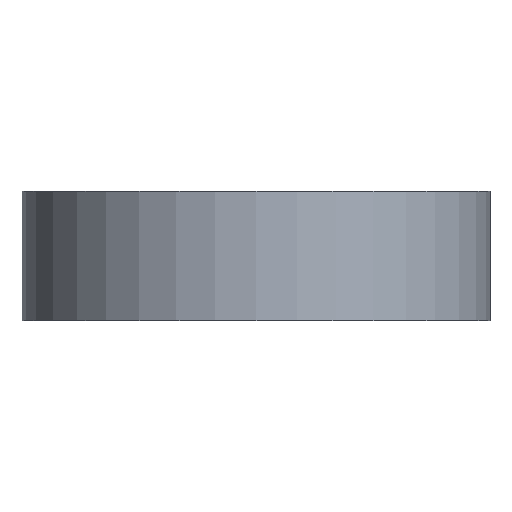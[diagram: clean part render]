
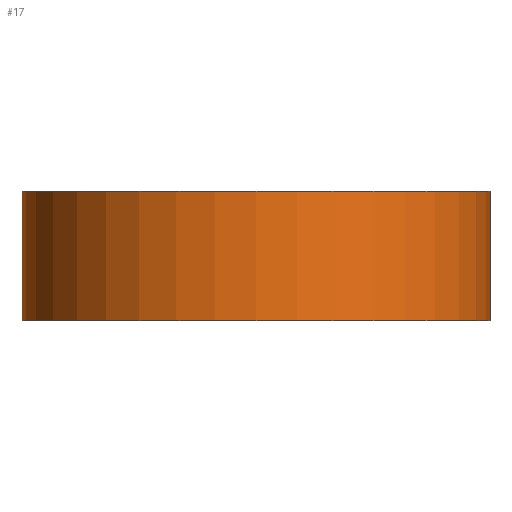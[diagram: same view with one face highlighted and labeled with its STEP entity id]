
A CAD part, front view. The second image highlights one B-rep face of the part: STEP entity #17.
In plain terms, the highlighted cylindrical face has radius 155 mm (diameter 310 mm), a full revolution.
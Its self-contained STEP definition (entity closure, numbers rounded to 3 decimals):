
#17 = ADVANCED_FACE('',(#18,#105),#32,.T.);
#18 = FACE_BOUND('',#19,.T.);
#19 = EDGE_LOOP('',(#20,#50,#77,#78));
#20 = ORIENTED_EDGE('',*,*,#21,.T.);
#21 = EDGE_CURVE('',#22,#24,#26,.T.);
#22 = VERTEX_POINT('',#23);
#23 = CARTESIAN_POINT('',(-340.,155.,238.));
#24 = VERTEX_POINT('',#25);
#25 = CARTESIAN_POINT('',(-340.,155.,324.));
#26 = SEAM_CURVE('',#27,(#31,#43),.PCURVE_S1.);
#27 = LINE('',#28,#29);
#28 = CARTESIAN_POINT('',(-340.,155.,238.));
#29 = VECTOR('',#30,1.);
#30 = DIRECTION('',(0.,0.,1.));
#31 = PCURVE('',#32,#37);
#32 = CYLINDRICAL_SURFACE('',#33,155.);
#33 = AXIS2_PLACEMENT_3D('',#34,#35,#36);
#34 = CARTESIAN_POINT('',(-495.,155.,238.));
#35 = DIRECTION('',(0.,0.,1.));
#36 = DIRECTION('',(1.,0.,-0.));
#37 = DEFINITIONAL_REPRESENTATION('',(#38),#42);
#38 = LINE('',#39,#40);
#39 = CARTESIAN_POINT('',(6.283,-0.));
#40 = VECTOR('',#41,1.);
#41 = DIRECTION('',(0.,1.));
#42 = ( GEOMETRIC_REPRESENTATION_CONTEXT(2) 
PARAMETRIC_REPRESENTATION_CONTEXT() REPRESENTATION_CONTEXT('2D SPACE',''
  ) );
#43 = PCURVE('',#32,#44);
#44 = DEFINITIONAL_REPRESENTATION('',(#45),#49);
#45 = LINE('',#46,#47);
#46 = CARTESIAN_POINT('',(0.,-0.));
#47 = VECTOR('',#48,1.);
#48 = DIRECTION('',(0.,1.));
#49 = ( GEOMETRIC_REPRESENTATION_CONTEXT(2) 
PARAMETRIC_REPRESENTATION_CONTEXT() REPRESENTATION_CONTEXT('2D SPACE',''
  ) );
#50 = ORIENTED_EDGE('',*,*,#51,.F.);
#51 = EDGE_CURVE('',#24,#24,#52,.T.);
#52 = SURFACE_CURVE('',#53,(#58,#65),.PCURVE_S1.);
#53 = CIRCLE('',#54,155.);
#54 = AXIS2_PLACEMENT_3D('',#55,#56,#57);
#55 = CARTESIAN_POINT('',(-495.,155.,324.));
#56 = DIRECTION('',(0.,0.,1.));
#57 = DIRECTION('',(1.,0.,-0.));
#58 = PCURVE('',#32,#59);
#59 = DEFINITIONAL_REPRESENTATION('',(#60),#64);
#60 = LINE('',#61,#62);
#61 = CARTESIAN_POINT('',(0.,86.));
#62 = VECTOR('',#63,1.);
#63 = DIRECTION('',(1.,0.));
#64 = ( GEOMETRIC_REPRESENTATION_CONTEXT(2) 
PARAMETRIC_REPRESENTATION_CONTEXT() REPRESENTATION_CONTEXT('2D SPACE',''
  ) );
#65 = PCURVE('',#66,#71);
#66 = PLANE('',#67);
#67 = AXIS2_PLACEMENT_3D('',#68,#69,#70);
#68 = CARTESIAN_POINT('',(-495.,155.,324.));
#69 = DIRECTION('',(0.,0.,1.));
#70 = DIRECTION('',(1.,0.,-0.));
#71 = DEFINITIONAL_REPRESENTATION('',(#72),#76);
#72 = CIRCLE('',#73,155.);
#73 = AXIS2_PLACEMENT_2D('',#74,#75);
#74 = CARTESIAN_POINT('',(0.,0.));
#75 = DIRECTION('',(1.,0.));
#76 = ( GEOMETRIC_REPRESENTATION_CONTEXT(2) 
PARAMETRIC_REPRESENTATION_CONTEXT() REPRESENTATION_CONTEXT('2D SPACE',''
  ) );
#77 = ORIENTED_EDGE('',*,*,#21,.F.);
#78 = ORIENTED_EDGE('',*,*,#79,.T.);
#79 = EDGE_CURVE('',#22,#22,#80,.T.);
#80 = SURFACE_CURVE('',#81,(#86,#93),.PCURVE_S1.);
#81 = CIRCLE('',#82,155.);
#82 = AXIS2_PLACEMENT_3D('',#83,#84,#85);
#83 = CARTESIAN_POINT('',(-495.,155.,238.));
#84 = DIRECTION('',(0.,0.,1.));
#85 = DIRECTION('',(1.,0.,-0.));
#86 = PCURVE('',#32,#87);
#87 = DEFINITIONAL_REPRESENTATION('',(#88),#92);
#88 = LINE('',#89,#90);
#89 = CARTESIAN_POINT('',(0.,0.));
#90 = VECTOR('',#91,1.);
#91 = DIRECTION('',(1.,0.));
#92 = ( GEOMETRIC_REPRESENTATION_CONTEXT(2) 
PARAMETRIC_REPRESENTATION_CONTEXT() REPRESENTATION_CONTEXT('2D SPACE',''
  ) );
#93 = PCURVE('',#94,#99);
#94 = PLANE('',#95);
#95 = AXIS2_PLACEMENT_3D('',#96,#97,#98);
#96 = CARTESIAN_POINT('',(-495.,155.,238.));
#97 = DIRECTION('',(0.,0.,1.));
#98 = DIRECTION('',(1.,0.,-0.));
#99 = DEFINITIONAL_REPRESENTATION('',(#100),#104);
#100 = CIRCLE('',#101,155.);
#101 = AXIS2_PLACEMENT_2D('',#102,#103);
#102 = CARTESIAN_POINT('',(0.,0.));
#103 = DIRECTION('',(1.,0.));
#104 = ( GEOMETRIC_REPRESENTATION_CONTEXT(2) 
PARAMETRIC_REPRESENTATION_CONTEXT() REPRESENTATION_CONTEXT('2D SPACE',''
  ) );
#105 = FACE_BOUND('',#106,.T.);
#106 = EDGE_LOOP('',(#107,#138,#164,#193));
#107 = ORIENTED_EDGE('',*,*,#108,.F.);
#108 = EDGE_CURVE('',#109,#111,#113,.T.);
#109 = VERTEX_POINT('',#110);
#110 = CARTESIAN_POINT('',(-347.298,202.,274.));
#111 = VERTEX_POINT('',#112);
#112 = CARTESIAN_POINT('',(-377.424,256.,274.));
#113 = SURFACE_CURVE('',#114,(#119,#126),.PCURVE_S1.);
#114 = CIRCLE('',#115,155.);
#115 = AXIS2_PLACEMENT_3D('',#116,#117,#118);
#116 = CARTESIAN_POINT('',(-495.,155.,274.));
#117 = DIRECTION('',(0.,0.,1.));
#118 = DIRECTION('',(1.,0.,-0.));
#119 = PCURVE('',#32,#120);
#120 = DEFINITIONAL_REPRESENTATION('',(#121),#125);
#121 = LINE('',#122,#123);
#122 = CARTESIAN_POINT('',(0.,36.));
#123 = VECTOR('',#124,1.);
#124 = DIRECTION('',(1.,0.));
#125 = ( GEOMETRIC_REPRESENTATION_CONTEXT(2) 
PARAMETRIC_REPRESENTATION_CONTEXT() REPRESENTATION_CONTEXT('2D SPACE',''
  ) );
#126 = PCURVE('',#127,#132);
#127 = PLANE('',#128);
#128 = AXIS2_PLACEMENT_3D('',#129,#130,#131);
#129 = CARTESIAN_POINT('',(-390.,202.,274.));
#130 = DIRECTION('',(0.,0.,1.));
#131 = DIRECTION('',(1.,0.,-0.));
#132 = DEFINITIONAL_REPRESENTATION('',(#133),#137);
#133 = CIRCLE('',#134,155.);
#134 = AXIS2_PLACEMENT_2D('',#135,#136);
#135 = CARTESIAN_POINT('',(-105.,-47.));
#136 = DIRECTION('',(1.,0.));
#137 = ( GEOMETRIC_REPRESENTATION_CONTEXT(2) 
PARAMETRIC_REPRESENTATION_CONTEXT() REPRESENTATION_CONTEXT('2D SPACE',''
  ) );
#138 = ORIENTED_EDGE('',*,*,#139,.T.);
#139 = EDGE_CURVE('',#109,#140,#142,.T.);
#140 = VERTEX_POINT('',#141);
#141 = CARTESIAN_POINT('',(-347.298,202.,312.));
#142 = SURFACE_CURVE('',#143,(#147,#153),.PCURVE_S1.);
#143 = LINE('',#144,#145);
#144 = CARTESIAN_POINT('',(-347.298,202.,238.));
#145 = VECTOR('',#146,1.);
#146 = DIRECTION('',(0.,0.,1.));
#147 = PCURVE('',#32,#148);
#148 = DEFINITIONAL_REPRESENTATION('',(#149),#152);
#149 = B_SPLINE_CURVE_WITH_KNOTS('',1,(#150,#151),.UNSPECIFIED.,.F.,.F.,
  (2,2),(32.2,77.8),.PIECEWISE_BEZIER_KNOTS.);
#150 = CARTESIAN_POINT('',(0.308,32.2));
#151 = CARTESIAN_POINT('',(0.308,77.8));
#152 = ( GEOMETRIC_REPRESENTATION_CONTEXT(2) 
PARAMETRIC_REPRESENTATION_CONTEXT() REPRESENTATION_CONTEXT('2D SPACE',''
  ) );
#153 = PCURVE('',#154,#159);
#154 = PLANE('',#155);
#155 = AXIS2_PLACEMENT_3D('',#156,#157,#158);
#156 = CARTESIAN_POINT('',(-390.,202.,274.));
#157 = DIRECTION('',(-0.,1.,0.));
#158 = DIRECTION('',(0.,0.,1.));
#159 = DEFINITIONAL_REPRESENTATION('',(#160),#163);
#160 = B_SPLINE_CURVE_WITH_KNOTS('',1,(#161,#162),.UNSPECIFIED.,.F.,.F.,
  (2,2),(32.2,77.8),.PIECEWISE_BEZIER_KNOTS.);
#161 = CARTESIAN_POINT('',(-3.8,42.702));
#162 = CARTESIAN_POINT('',(41.8,42.702));
#163 = ( GEOMETRIC_REPRESENTATION_CONTEXT(2) 
PARAMETRIC_REPRESENTATION_CONTEXT() REPRESENTATION_CONTEXT('2D SPACE',''
  ) );
#164 = ORIENTED_EDGE('',*,*,#165,.T.);
#165 = EDGE_CURVE('',#140,#166,#168,.T.);
#166 = VERTEX_POINT('',#167);
#167 = CARTESIAN_POINT('',(-377.424,256.,312.));
#168 = SURFACE_CURVE('',#169,(#174,#181),.PCURVE_S1.);
#169 = CIRCLE('',#170,155.);
#170 = AXIS2_PLACEMENT_3D('',#171,#172,#173);
#171 = CARTESIAN_POINT('',(-495.,155.,312.));
#172 = DIRECTION('',(0.,0.,1.));
#173 = DIRECTION('',(1.,0.,-0.));
#174 = PCURVE('',#32,#175);
#175 = DEFINITIONAL_REPRESENTATION('',(#176),#180);
#176 = LINE('',#177,#178);
#177 = CARTESIAN_POINT('',(0.,74.));
#178 = VECTOR('',#179,1.);
#179 = DIRECTION('',(1.,0.));
#180 = ( GEOMETRIC_REPRESENTATION_CONTEXT(2) 
PARAMETRIC_REPRESENTATION_CONTEXT() REPRESENTATION_CONTEXT('2D SPACE',''
  ) );
#181 = PCURVE('',#182,#187);
#182 = PLANE('',#183);
#183 = AXIS2_PLACEMENT_3D('',#184,#185,#186);
#184 = CARTESIAN_POINT('',(-390.,202.,312.));
#185 = DIRECTION('',(0.,0.,1.));
#186 = DIRECTION('',(1.,0.,-0.));
#187 = DEFINITIONAL_REPRESENTATION('',(#188),#192);
#188 = CIRCLE('',#189,155.);
#189 = AXIS2_PLACEMENT_2D('',#190,#191);
#190 = CARTESIAN_POINT('',(-105.,-47.));
#191 = DIRECTION('',(1.,0.));
#192 = ( GEOMETRIC_REPRESENTATION_CONTEXT(2) 
PARAMETRIC_REPRESENTATION_CONTEXT() REPRESENTATION_CONTEXT('2D SPACE',''
  ) );
#193 = ORIENTED_EDGE('',*,*,#194,.F.);
#194 = EDGE_CURVE('',#111,#166,#195,.T.);
#195 = SURFACE_CURVE('',#196,(#200,#206),.PCURVE_S1.);
#196 = LINE('',#197,#198);
#197 = CARTESIAN_POINT('',(-377.424,256.,238.));
#198 = VECTOR('',#199,1.);
#199 = DIRECTION('',(0.,0.,1.));
#200 = PCURVE('',#32,#201);
#201 = DEFINITIONAL_REPRESENTATION('',(#202),#205);
#202 = B_SPLINE_CURVE_WITH_KNOTS('',1,(#203,#204),.UNSPECIFIED.,.F.,.F.,
  (2,2),(32.2,77.8),.PIECEWISE_BEZIER_KNOTS.);
#203 = CARTESIAN_POINT('',(0.71,32.2));
#204 = CARTESIAN_POINT('',(0.71,77.8));
#205 = ( GEOMETRIC_REPRESENTATION_CONTEXT(2) 
PARAMETRIC_REPRESENTATION_CONTEXT() REPRESENTATION_CONTEXT('2D SPACE',''
  ) );
#206 = PCURVE('',#207,#212);
#207 = PLANE('',#208);
#208 = AXIS2_PLACEMENT_3D('',#209,#210,#211);
#209 = CARTESIAN_POINT('',(-390.,256.,274.));
#210 = DIRECTION('',(-0.,1.,0.));
#211 = DIRECTION('',(0.,0.,1.));
#212 = DEFINITIONAL_REPRESENTATION('',(#213),#216);
#213 = B_SPLINE_CURVE_WITH_KNOTS('',1,(#214,#215),.UNSPECIFIED.,.F.,.F.,
  (2,2),(32.2,77.8),.PIECEWISE_BEZIER_KNOTS.);
#214 = CARTESIAN_POINT('',(-3.8,12.576));
#215 = CARTESIAN_POINT('',(41.8,12.576));
#216 = ( GEOMETRIC_REPRESENTATION_CONTEXT(2) 
PARAMETRIC_REPRESENTATION_CONTEXT() REPRESENTATION_CONTEXT('2D SPACE',''
  ) );
